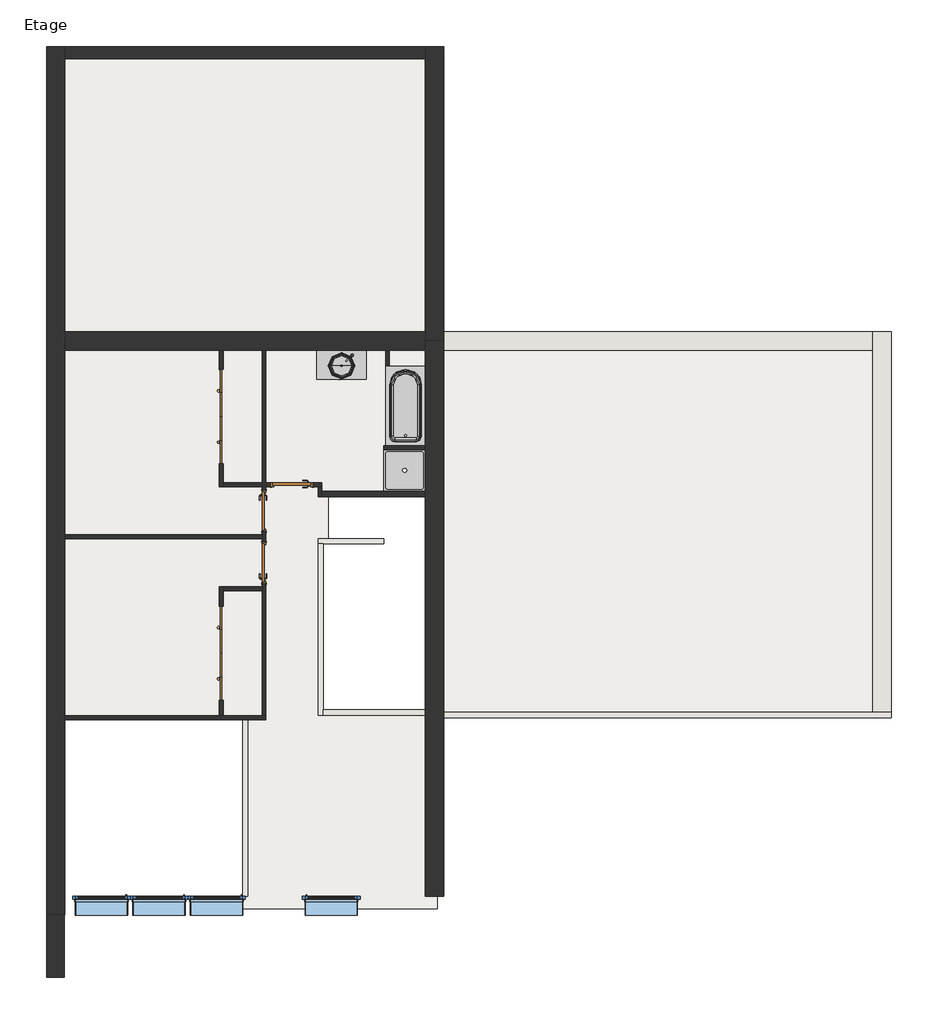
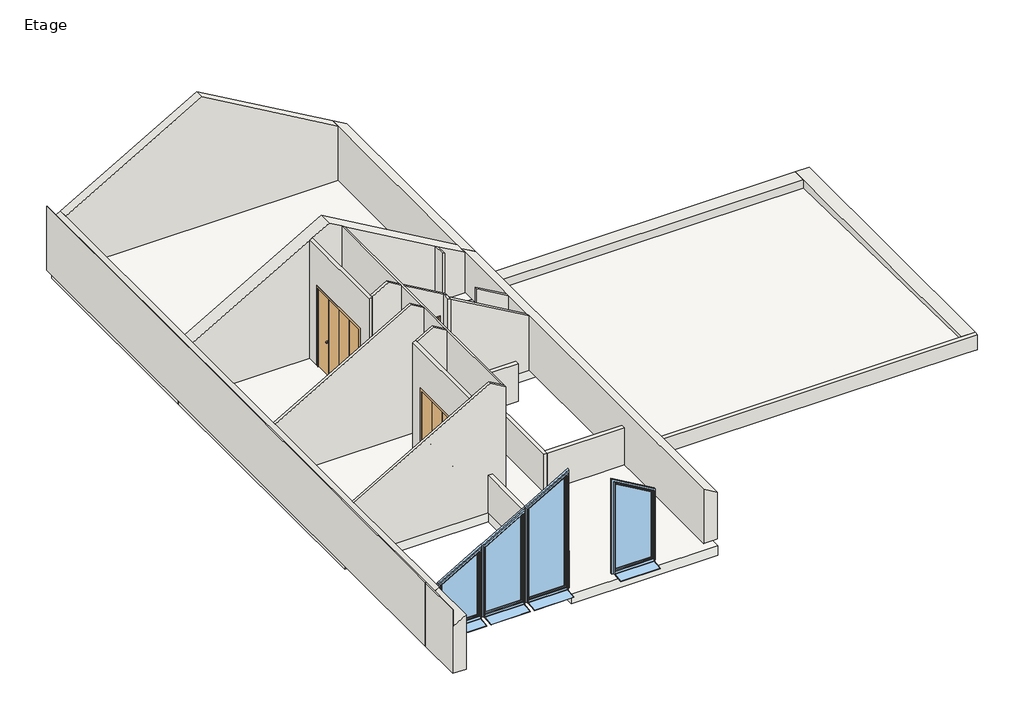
# One storey, incomplete: 25 walls, 5 doors, 4 windows, 3 flow terminals, 3 slabs, 1 furniture element, 1 roof.
"""IFC4 building model written with IfcOpenShell, lengths in millimetres."""

from ifc_helpers import new_model, si_unit, frame, origin, place, context, project, spatial, polyline, outline, extrude, faceted_brep, transform, mapped, element, save
from components import door_180cm_x_210cm_d4e2d69c, int_simple_pp_0_73m_x_2_04m_31faaed5, int_simple_pp_0_73m_x_2_04m_359deddd, flow_terminal_414a0167, flow_terminal_800_x_800mm_07a2eba6, baignoire_rectangulaire_mur_baignoire_rectangulaire_mur_f2afccf1, furniture_900mm_0b803dc7, window_1_vantail_angle_1_00m_x_1_83m_b6dea95d, window_1_vantail_angle_1_00m_x_2_45m_7bd88ca6, window_1_vantail_angle_1_00m_x_2_45m_d07fa77f, window_1_vantail_angle_1_00m_x_3_09m_aeb0207c

model = new_model("IFC4")

# Units and contexts
model_context = context("Model", 3, world=origin())
ifc_project = project(units=[si_unit("LENGTHUNIT", "METRE", prefix="MILLI")], contexts=[model_context])

# Site, building, storey
site = spatial("IfcSite", under=ifc_project)
building = spatial("IfcBuilding", under=site)
storey = spatial("IfcBuildingStorey", under=building, Name="Etage", Elevation=3000.0)

# Doors
placement = place(None, origin())
door_180cm_x_210cm_shape = door_180cm_x_210cm_d4e2d69c(model_context)
element("IfcDoor", 1, ObjectType="Placard double pliante : 180cm x 210cm", at=placement, inside=storey, context=model_context, shape_type="MappedRepresentation", body=[
    mapped(door_180cm_x_210cm_shape, transform((-4616.3224934, 785.4574199, 3000.0), x_axis=(0.0, -1.0, 0.0), y_axis=(1.0, 0.0, 0.0), z_axis=(0.0, 0.0, 1.0))),
])
element("IfcDoor", 2, ObjectType="Placard double pliante : 180cm x 210cm", at=placement, inside=storey, context=model_context, shape_type="MappedRepresentation", body=[
    mapped(door_180cm_x_210cm_shape, transform((-4616.3224934, -3737.5425801, 3000.0), x_axis=(0.0, -1.0, 0.0), y_axis=(1.0, 0.0, 0.0), z_axis=(0.0, 0.0, 1.0))),
])
int_simple_pp_0_73m_x_2_04m_shape = int_simple_pp_0_73m_x_2_04m_31faaed5(model_context)
element("IfcDoor", 3, ObjectType="Int. Simple : PP (0.73m x 2.04m)", at=placement, inside=storey, context=model_context, shape_type="MappedRepresentation", body=[
    mapped(int_simple_pp_0_73m_x_2_04m_shape, transform((-3801.3224934, -1975.0425801, 3000.0), x_axis=(0.0, 1.0, 0.0), y_axis=(-1.0, 0.0, 0.0), z_axis=(0.0, 0.0, 1.0))),
])
int_simple_pp_0_73m_x_2_04m_2_shape = int_simple_pp_0_73m_x_2_04m_359deddd(model_context)
element("IfcDoor", 4, ObjectType="Int. Simple : PP (0.73m x 2.04m)", at=placement, inside=storey, context=model_context, shape_type="MappedRepresentation", body=[
    mapped(int_simple_pp_0_73m_x_2_04m_2_shape, transform((-3801.3224934, -1053.0425801, 3000.0), x_axis=(0.0, -1.0, 0.0), y_axis=(1.0, 0.0, 0.0), z_axis=(0.0, 0.0, 1.0))),
])
element("IfcDoor", 5, ObjectType="Int. Simple : PP (0.73m x 2.04m)", at=placement, inside=storey, context=model_context, shape_type="MappedRepresentation", body=[
    mapped(int_simple_pp_0_73m_x_2_04m_2_shape, transform((-3304.3224934, -520.0425801, 3000.0), x_axis=(-1.0, 0.0, 0.0), y_axis=(0.0, -1.0, 0.0), z_axis=(0.0, 0.0, 1.0))),
])

# Flow terminals
flow_terminal_shape = flow_terminal_414a0167(model_context)
element("IfcFlowTerminal", 6, ObjectType="Lavabo moderne : Lavabo moderne", at=placement, inside=storey, context=model_context, shape_type="MappedRepresentation", body=[
    mapped(flow_terminal_shape, transform((-2344.1723599, 2054.9574199, 3740.0), x_axis=(1.0, 0.0, 0.0), y_axis=(0.0, 1.0, 0.0), z_axis=(0.0, 0.0, 1.0))),
])
flow_terminal_800_x_800mm_shape = flow_terminal_800_x_800mm_07a2eba6(model_context)
element("IfcFlowTerminal", 7, ObjectType="Receveur d'angle - Vidange axée : 800 x 800mm", at=placement, inside=storey, context=model_context, shape_type="MappedRepresentation", body=[
    mapped(flow_terminal_800_x_800mm_shape, transform((-1116.697342, -245.1038978, 3000.0), x_axis=(1.0, 0.0, 0.0), y_axis=(0.0, 1.0, 0.0), z_axis=(0.0, 0.0, 1.0))),
])
baignoire_rectangulaire_mur_baignoire_rectangulaire_mur_shape = baignoire_rectangulaire_mur_baignoire_rectangulaire_mur_f2afccf1(model_context)
element("IfcFlowTerminal", 8, ObjectType="Baignoire rectangulaire - Mur : Baignoire rectangulaire - Mur", at=placement, inside=storey, context=model_context, shape_type="MappedRepresentation", body=[
    mapped(baignoire_rectangulaire_mur_baignoire_rectangulaire_mur_shape, transform((-541.697342, 1337.4990709, 3000.0), x_axis=(0.0, 1.0, 0.0), y_axis=(-1.0, 0.0, 0.0), z_axis=(0.0, 0.0, 1.0))),
])

# Furniture
furniture_900mm_shape = furniture_900mm_0b803dc7(model_context)
element("IfcFurniture", 9, ObjectType="Meuble sous lavabo - Porte simple et 2 tiroirs : 900mm", at=placement, inside=storey, context=model_context, shape_type="MappedRepresentation", body=[
    mapped(furniture_900mm_shape, transform((-2414.2601983, 2054.9574199, 3000.0), x_axis=(1.0, 0.0, 0.0), y_axis=(0.0, 1.0, 0.0), z_axis=(0.0, 0.0, 1.0))),
])

# Roof
element("IfcRoof", 10, ObjectType="Toiture terrasse", at=placement, inside=storey, context=model_context, shape_type="SweptSolid", body=[
    extrude(outline(polyline([(-4867.1038978, 3320.0639936), (2054.9574199, 3181.6227672), (2054.9574199, 2861.5587736), (-4867.1038978, 3000.0), (-4867.1038978, 3320.0639936)])), frame((-366.697342, 0.0, 0.0), z_axis=(1.0, 0.0, 0.0), x_axis=(0.0, 1.0, 0.0)), (0.0, 0.0, 1.0), 8200.0),
])

# Slabs
element("IfcSlab", 11, ObjectType="Dalle en béton", at=placement, inside=storey, context=model_context, shape_type="Brep", body=[
    faceted_brep([(-486.697342, -8615.0425801, 2750.0), (-4198.697342, -8615.0425801, 2750.0), (-4198.697342, -4992.0425801, 2750.0), (-7606.697342, -4992.0425801, 2750.0), (-7836.697342, -4992.0425801, 2750.0), (-7836.697342, 2284.9574199, 2750.0), (-7606.697342, 2284.9574199, 2750.0), (-716.697342, 2284.9574199, 2750.0), (-486.697342, 2284.9574199, 2750.0), (-486.697342, 2229.9574199, 2750.0), (-486.697342, 757.8961022, 2750.0), (-486.697342, -732.1038978, 2750.0), (-716.697342, -732.1038978, 2750.0), (-2577.5004576, -732.1038978, 2750.0), (-2577.5004576, -745.1038978, 2750.0), (-2577.5004576, -1545.1038978, 2750.0), (-2577.5004576, -1632.1038978, 2750.0), (-2619.1256089, -1632.1038978, 2750.0), (-2682.3224934, -1632.1038978, 2750.0), (-2682.3224934, -1645.1038978, 2750.0), (-2682.3224934, -4831.0425801, 2750.0), (-716.697342, -4831.0425801, 2750.0), (-486.697342, -4831.0425801, 2750.0), (-486.697342, -8385.0425801, 2750.0), (-486.697342, -8615.0425801, 3000.0), (-486.697342, -8385.0425801, 3000.0), (-486.697342, -4831.0425801, 3000.0), (-716.697342, -4831.0425801, 3000.0), (-2682.3224934, -4831.0425801, 3000.0), (-2682.3224934, -1645.1038978, 3000.0), (-2682.3224934, -1632.1038978, 3000.0), (-2619.1256089, -1632.1038978, 3000.0), (-2577.5004576, -1632.1038978, 3000.0), (-2577.5004576, -1545.1038978, 3000.0), (-2577.5004576, -745.1038978, 3000.0), (-2577.5004576, -732.1038978, 3000.0), (-716.697342, -732.1038978, 3000.0), (-486.697342, -732.1038978, 3000.0), (-486.697342, 757.8961022, 3000.0), (-486.697342, 2229.9574199, 3000.0), (-486.697342, 2284.9574199, 3000.0), (-716.697342, 2284.9574199, 3000.0), (-7606.697342, 2284.9574199, 3000.0), (-7836.697342, 2284.9574199, 3000.0), (-7836.697342, -4992.0425801, 3000.0), (-7606.697342, -4992.0425801, 3000.0), (-4198.697342, -4992.0425801, 3000.0), (-4198.697342, -8615.0425801, 3000.0)], [[[0, 1, 2, 3, 4, 5, 6, 7, 8, 9, 10, 11, 12, 13, 14, 15, 16, 17, 18, 19, 20, 21, 22, 23]], [[24, 25, 26, 27, 28, 29, 30, 31, 32, 33, 34, 35, 36, 37, 38, 39, 40, 41, 42, 43, 44, 45, 46, 47]], [[1, 0, 24, 47]], [[5, 4, 44, 43]], [[8, 7, 6, 5, 43, 42, 41, 40]], [[0, 23, 22, 26, 25, 24]], [[2, 1, 47, 46]], [[4, 3, 2, 46, 45, 44]], [[11, 10, 9, 8, 40, 39, 38, 37]], [[13, 12, 11, 37, 36, 35]], [[16, 15, 14, 13, 35, 34, 33, 32]], [[18, 17, 16, 32, 31, 30]], [[20, 19, 18, 30, 29, 28]], [[22, 21, 20, 28, 27, 26]]]),
])
element("IfcSlab", 12, ObjectType="Dalle en béton", at=placement, inside=storey, context=model_context, shape_type="Brep", body=[
    faceted_brep([(-486.697342, 7834.9574199, 2750.0), (-486.697342, 2284.9574199, 2750.0), (-7836.697342, 2284.9574199, 2750.0), (-7836.697342, 7624.9574199, 2750.0), (-7836.697342, 7834.9574199, 2750.0), (-5616.5193778, 7834.9574199, 2750.0), (-486.697342, 7834.9574199, 3000.0), (-5616.5193778, 7834.9574199, 3000.0), (-7836.697342, 7834.9574199, 3000.0), (-7836.697342, 7624.9574199, 3000.0), (-7836.697342, 2284.9574199, 3000.0), (-486.697342, 2284.9574199, 3000.0)], [[[0, 1, 2, 3, 4, 5]], [[6, 7, 8, 9, 10, 11]], [[1, 0, 6, 11]], [[2, 1, 11, 10]], [[4, 3, 2, 10, 9, 8]], [[0, 5, 4, 8, 7, 6]]]),
])
element("IfcSlab", 13, ObjectType="Carrelage", at=placement, inside=storey, context=model_context, shape_type="Brep", body=[
    faceted_brep([(-716.697342, 2054.9574199, 3330.0), (-716.697342, 1751.8961022, 3330.0), (-1406.697342, 1751.8961022, 3330.0), (-1478.697342, 1751.8961022, 3330.0), (-1478.697342, 2054.9574199, 3330.0), (-1406.697342, 2054.9574199, 3330.0), (-716.697342, 2054.9574199, 3380.0), (-1406.697342, 2054.9574199, 3380.0), (-1478.697342, 2054.9574199, 3380.0), (-1478.697342, 1751.8961022, 3380.0), (-1406.697342, 1751.8961022, 3380.0), (-716.697342, 1751.8961022, 3380.0)], [[[0, 1, 2, 3, 4, 5]], [[6, 7, 8, 9, 10, 11]], [[1, 0, 6, 11]], [[3, 2, 1, 11, 10, 9]], [[4, 3, 9, 8]], [[0, 5, 4, 8, 7, 6]]]),
])

# Walls
element("IfcWall", 14, ObjectType="Ext. Bardage Métal + Isolant + Béton + Finition", at=placement, inside=storey, context=model_context, shape_type="Brep", body=[
    faceted_brep([(-7956.697342, 7854.9574199, 3000.0), (-7956.697342, 7624.9574199, 3000.0), (-7956.697342, -8735.0425801, 3000.0), (-7956.697342, -8735.0425801, 4700.0), (-7956.697342, 7854.9574199, 4700.0), (-7606.697342, 7854.9574199, 3000.0), (-7606.697342, 7854.9574199, 4452.0725942), (-7606.697342, 7624.9574199, 4452.0725942), (-7606.697342, 2404.9574199, 4452.0725942), (-7606.697342, 2054.9574199, 4452.0725942), (-7606.697342, -1478.0425801, 4452.0725942), (-7606.697342, -1550.0425801, 4452.0725942), (-7606.697342, -4933.0425801, 4452.0725942), (-7606.697342, -5005.0425801, 4452.0725942), (-7606.697342, -8385.0425801, 4452.0725942), (-7606.697342, -8735.0425801, 4452.0725942), (-7606.697342, -8735.0425801, 3000.0), (-7606.697342, -8385.0425801, 3000.0), (-7606.697342, -5005.0425801, 3000.0), (-7606.697342, -4992.0425801, 3000.0), (-7606.697342, -4933.0425801, 3000.0), (-7606.697342, -1550.0425801, 3000.0), (-7606.697342, -1478.0425801, 3000.0), (-7606.697342, 2054.9574199, 3000.0), (-7606.697342, 2284.9574199, 3000.0), (-7606.697342, 2404.9574199, 3000.0), (-7606.697342, 7624.9574199, 3000.0), (-7616.697342, -8735.0425801, 3000.0), (-7936.697342, 7854.9574199, 4700.0), (-7936.697342, 7854.9574199, 4261.5470054), (-7616.697342, -8735.0425801, 4446.2990915), (-7936.697342, -8735.0425801, 4261.5470054), (-7936.697342, -8735.0425801, 4700.0)], [[[0, 1, 2, 3, 4]], [[5, 6, 7, 8, 9, 10, 11, 12, 13, 14, 15, 16, 17, 18, 19, 20, 21, 22, 23, 24, 25, 26]], [[2, 1, 0, 5, 26, 25, 24, 23, 22, 21, 20, 19, 18, 17, 16, 27]], [[0, 4, 28, 29, 6, 5]], [[3, 2, 27, 16, 15, 30, 31, 32]], [[4, 3, 32, 28]], [[28, 32, 31, 29]], [[31, 30, 15, 14, 13, 12, 11, 10, 9, 8, 7, 6, 29]]]),
])
element("IfcWall", 15, ObjectType="Ext. Bardage Bois + Isolant + Béton + Finition", at=placement, inside=storey, context=model_context, shape_type="Brep", body=[
    faceted_brep([(-366.697342, -8385.0425801, 3000.0), (-366.697342, -4967.1038978, 3000.0), (-366.697342, -4867.1038978, 3000.0), (-366.697342, -3635.0425801, 3000.0), (-366.697342, 2054.9574199, 3000.0), (-366.697342, 2229.9574199, 3000.0), (-366.697342, 2229.9574199, 4250.0), (-366.697342, -8385.0425801, 4250.0), (-716.697342, -8385.0425801, 3000.0), (-716.697342, -8385.0425801, 4452.0725942), (-716.697342, -745.1038978, 4452.0725942), (-716.697342, -645.1038978, 4452.0725942), (-716.697342, 154.8961022, 4452.0725942), (-716.697342, 226.8961022, 4452.0725942), (-716.697342, 2054.9574199, 4452.0725942), (-716.697342, 2229.9574199, 4452.0725942), (-716.697342, 2229.9574199, 3000.0), (-716.697342, 2054.9574199, 3000.0), (-716.697342, 226.8961022, 3000.0), (-716.697342, 154.8961022, 3000.0), (-716.697342, -645.1038978, 3000.0), (-716.697342, -732.1038978, 3000.0), (-716.697342, -745.1038978, 3000.0), (-716.697342, -3635.0425801, 3000.0), (-716.697342, -4818.0425801, 3000.0), (-716.697342, -4831.0425801, 3000.0), (-716.697342, -4918.0425801, 3000.0), (-486.697342, -8385.0425801, 3000.0), (-486.697342, 2229.9574199, 3000.0)], [[[0, 1, 2, 3, 4, 5, 6, 7]], [[8, 9, 10, 11, 12, 13, 14, 15, 16, 17, 18, 19, 20, 21, 22, 23, 24, 25, 26]], [[5, 4, 3, 2, 1, 0, 27, 8, 26, 25, 24, 23, 22, 21, 20, 19, 18, 17, 16, 28]], [[0, 7, 9, 8, 27]], [[5, 28, 16, 15, 6]], [[7, 6, 15, 14, 13, 12, 11, 10, 9]]]),
])
element("IfcWall", 16, ObjectType="Ext. Bardage Bois + Isolant + Béton + Finition", at=placement, inside=storey, context=model_context, shape_type="Brep", body=[
    faceted_brep([(-716.697342, 2404.9574199, 4452.0725942), (-716.697342, 2404.9574199, 3000.0), (-7606.697342, 2404.9574199, 3000.0), (-7606.697342, 2404.9574199, 4452.0725942), (-4161.697342, 2404.9574199, 6441.0442716), (-716.697342, 2054.9574199, 3000.0), (-716.697342, 2054.9574199, 4452.0725942), (-1406.697342, 2054.9574199, 4850.44428), (-1478.697342, 2054.9574199, 4892.0134993), (-3765.3224934, 2054.9574199, 6212.197146), (-3837.3224934, 2054.9574199, 6253.7663654), (-4161.697342, 2054.9574199, 6441.0442716), (-4580.3224934, 2054.9574199, 6199.3509277), (-4652.3224934, 2054.9574199, 6157.7817084), (-7606.697342, 2054.9574199, 4452.0725942), (-7606.697342, 2054.9574199, 3000.0), (-4652.3224934, 2054.9574199, 3000.0), (-4580.3224934, 2054.9574199, 3000.0), (-3837.3224934, 2054.9574199, 3000.0), (-3765.3224934, 2054.9574199, 3000.0), (-1478.697342, 2054.9574199, 3000.0), (-1406.697342, 2054.9574199, 3000.0), (-716.697342, 2284.9574199, 3000.0), (-716.697342, 2229.9574199, 3000.0), (-716.697342, 2229.9574199, 4452.0725942)], [[[0, 1, 2, 3, 4]], [[5, 6, 7, 8, 9, 10, 11, 12, 13, 14, 15, 16, 17, 18, 19, 20, 21]], [[2, 1, 22, 23, 5, 21, 20, 19, 18, 17, 16, 15]], [[3, 2, 15, 14]], [[0, 24, 6, 5, 23, 22, 1]], [[0, 4, 11, 10, 9, 8, 7, 6, 24]], [[4, 3, 14, 13, 12, 11]]]),
])
element("IfcWall", 17, ObjectType="Int. Plâtre 70 mm", at=placement, inside=storey, context=model_context, shape_type="Brep", body=[
    faceted_brep([(-7606.697342, -5005.0425801, 3000.0), (-4211.697342, -5005.0425801, 3000.0), (-4111.697342, -5005.0425801, 3000.0), (-3765.3224934, -5005.0425801, 3000.0), (-3765.3224934, -5005.0425801, 6212.197146), (-4161.697342, -5005.0425801, 6441.0442716), (-7606.697342, -5005.0425801, 4452.0725942), (-7606.697342, -4933.0425801, 3000.0), (-7606.697342, -4933.0425801, 4452.0725942), (-4652.3224934, -4933.0425801, 6157.7817084), (-4580.3224934, -4933.0425801, 6199.3509277), (-4161.697342, -4933.0425801, 6441.0442716), (-3837.3224934, -4933.0425801, 6253.7663654), (-3765.3224934, -4933.0425801, 6212.197146), (-3765.3224934, -4933.0425801, 3000.0), (-3837.3224934, -4933.0425801, 3000.0), (-4580.3224934, -4933.0425801, 3000.0), (-4652.3224934, -4933.0425801, 3000.0)], [[[0, 1, 2, 3, 4, 5, 6]], [[7, 8, 9, 10, 11, 12, 13, 14, 15, 16, 17]], [[3, 2, 1, 0, 7, 17, 16, 15, 14]], [[0, 6, 8, 7]], [[4, 3, 14, 13]], [[6, 5, 11, 10, 9, 8]], [[5, 4, 13, 12, 11]]]),
])
element("IfcWall", 18, ObjectType="Int. Plâtre 70 mm", at=placement, inside=storey, context=model_context, shape_type="Brep", body=[
    faceted_brep([(-3765.3224934, -4933.0425801, 6212.197146), (-3765.3224934, -4933.0425801, 3000.0), (-3765.3224934, -2410.0425801, 3000.0), (-3765.3224934, -2410.0425801, 5075.0), (-3765.3224934, -1610.0425801, 5075.0), (-3765.3224934, -1610.0425801, 3000.0), (-3765.3224934, -1418.0425801, 3000.0), (-3765.3224934, -1418.0425801, 5075.0), (-3765.3224934, -618.0425801, 5075.0), (-3765.3224934, -618.0425801, 3000.0), (-3765.3224934, -556.0425801, 3000.0), (-3765.3224934, -484.0425801, 3000.0), (-3765.3224934, 2054.9574199, 3000.0), (-3765.3224934, 2054.9574199, 6212.197146), (-3765.3224934, -484.0425801, 6212.197146), (-3765.3224934, -556.0425801, 6212.197146), (-3837.3224934, -4933.0425801, 3000.0), (-3837.3224934, -4933.0425801, 6253.7663654), (-3837.3224934, -2542.0425801, 6253.7663654), (-3837.3224934, -2470.0425801, 6253.7663654), (-3837.3224934, -1550.0425801, 6253.7663654), (-3837.3224934, -1478.0425801, 6253.7663654), (-3837.3224934, -556.0425801, 6253.7663654), (-3837.3224934, -484.0425801, 6253.7663654), (-3837.3224934, 2054.9574199, 6253.7663654), (-3837.3224934, 2054.9574199, 3000.0), (-3837.3224934, -484.0425801, 3000.0), (-3837.3224934, -556.0425801, 3000.0), (-3837.3224934, -618.0425801, 3000.0), (-3837.3224934, -618.0425801, 5075.0), (-3837.3224934, -1418.0425801, 5075.0), (-3837.3224934, -1418.0425801, 3000.0), (-3837.3224934, -1478.0425801, 3000.0), (-3837.3224934, -1550.0425801, 3000.0), (-3837.3224934, -1610.0425801, 3000.0), (-3837.3224934, -1610.0425801, 5075.0), (-3837.3224934, -2410.0425801, 5075.0), (-3837.3224934, -2410.0425801, 3000.0), (-3837.3224934, -2470.0425801, 3000.0), (-3837.3224934, -2542.0425801, 3000.0)], [[[0, 1, 2, 3, 4, 5, 6, 7, 8, 9, 10, 11, 12, 13, 14, 15]], [[16, 17, 18, 19, 20, 21, 22, 23, 24, 25, 26, 27, 28, 29, 30, 31, 32, 33, 34, 35, 36, 37, 38, 39]], [[1, 16, 39, 38, 37, 2]], [[25, 12, 11, 10, 9, 28, 27, 26]], [[5, 34, 33, 32, 31, 6]], [[1, 0, 17, 16]], [[13, 12, 25, 24]], [[4, 35, 34, 5]], [[35, 4, 3, 36]], [[36, 3, 2, 37]], [[30, 7, 6, 31]], [[7, 30, 29, 8]], [[8, 29, 28, 9]], [[0, 15, 14, 13, 24, 23, 22, 21, 20, 19, 18, 17]]]),
])
element("IfcWall", 19, ObjectType="Int. Plâtre 70 mm", at=placement, inside=storey, context=model_context, shape_type="Brep", body=[
    faceted_brep([(-4652.3224934, 2054.9574199, 6157.7817084), (-4652.3224934, 2054.9574199, 3000.0), (-4652.3224934, 1685.4574199, 3000.0), (-4652.3224934, 1685.4574199, 5100.0), (-4652.3224934, -114.5425801, 5100.0), (-4652.3224934, -114.5425801, 3000.0), (-4652.3224934, -556.0425801, 3000.0), (-4652.3224934, -556.0425801, 6157.7817084), (-4580.3224934, 2054.9574199, 3000.0), (-4580.3224934, 2054.9574199, 6199.3509277), (-4580.3224934, -484.0425801, 6199.3509277), (-4580.3224934, -556.0425801, 6199.3509277), (-4580.3224934, -556.0425801, 3000.0), (-4580.3224934, -484.0425801, 3000.0), (-4580.3224934, -114.5425801, 3000.0), (-4580.3224934, -114.5425801, 5100.0), (-4580.3224934, 1685.4574199, 5100.0), (-4580.3224934, 1685.4574199, 3000.0)], [[[0, 1, 2, 3, 4, 5, 6, 7]], [[8, 9, 10, 11, 12, 13, 14, 15, 16, 17]], [[1, 8, 17, 2]], [[12, 6, 5, 14, 13]], [[1, 0, 9, 8]], [[7, 6, 12, 11]], [[4, 15, 14, 5]], [[15, 4, 3, 16]], [[16, 3, 2, 17]], [[0, 7, 11, 10, 9]]]),
])
element("IfcWall", 20, ObjectType="Int. Plâtre 70 mm", at=placement, inside=storey, context=model_context, shape_type="SweptSolid", body=[
    extrude(outline(polyline([(3000.0, -4580.3224934), (3000.0, -3837.3224934), (6253.7663654, -3837.3224934), (6441.0442716, -4161.697342), (6199.3509277, -4580.3224934), (3000.0, -4580.3224934)])), frame((0.0, -556.0425801, 0.0), z_axis=(0.0, 1.0, 0.0), x_axis=(0.0, 0.0, 1.0)), (0.0, 0.0, 1.0), 72.0),
])
element("IfcWall", 21, ObjectType="Int. Plâtre 70 mm", at=placement, inside=storey, context=model_context, shape_type="Brep", body=[
    faceted_brep([(-2769.3224934, -556.0425801, 3000.0), (-2769.3224934, -745.1038978, 3000.0), (-2769.3224934, -745.1038978, 5637.1562779), (-2769.3224934, -556.0425801, 5637.1562779), (-2697.3224934, -556.0425801, 3000.0), (-2697.3224934, -556.0425801, 5595.5870585), (-2697.3224934, -645.1038978, 5595.5870585), (-2697.3224934, -745.1038978, 5595.5870585), (-2697.3224934, -745.1038978, 3000.0), (-2697.3224934, -645.1038978, 3000.0)], [[[0, 1, 2, 3]], [[4, 5, 6, 7, 8, 9]], [[1, 0, 4, 9, 8]], [[0, 3, 5, 4]], [[2, 1, 8, 7]], [[3, 2, 7, 6, 5]]]),
])
element("IfcWall", 22, ObjectType="Int. Plâtre 70 mm", at=placement, inside=storey, context=model_context, shape_type="SweptSolid", body=[
    extrude(outline(polyline([(3000.0, -716.697342), (4452.0725942, -716.697342), (4913.9528096, -1516.697342), (3000.0, -1516.697342), (3000.0, -716.697342)])), frame((0.0, 154.8961022, 0.0), z_axis=(0.0, 1.0, 0.0), x_axis=(0.0, 0.0, 1.0)), (0.0, 0.0, 1.0), 72.0),
])
element("IfcWall", 23, ObjectType="Int. Plâtre 70 mm", at=placement, inside=storey, context=model_context, shape_type="Brep", body=[
    faceted_brep([(-4580.3224934, -4933.0425801, 6199.3509277), (-4580.3224934, -4933.0425801, 3000.0), (-4580.3224934, -4637.5425801, 3000.0), (-4580.3224934, -4637.5425801, 5100.0), (-4580.3224934, -2837.5425801, 5100.0), (-4580.3224934, -2837.5425801, 3000.0), (-4580.3224934, -2542.0425801, 3000.0), (-4580.3224934, -2470.0425801, 3000.0), (-4580.3224934, -2470.0425801, 6199.3509277), (-4580.3224934, -2542.0425801, 6199.3509277), (-4652.3224934, -4933.0425801, 3000.0), (-4652.3224934, -4933.0425801, 6157.7817084), (-4652.3224934, -2470.0425801, 6157.7817084), (-4652.3224934, -2470.0425801, 3000.0), (-4652.3224934, -2837.5425801, 3000.0), (-4652.3224934, -2837.5425801, 5100.0), (-4652.3224934, -4637.5425801, 5100.0), (-4652.3224934, -4637.5425801, 3000.0)], [[[0, 1, 2, 3, 4, 5, 6, 7, 8, 9]], [[10, 11, 12, 13, 14, 15, 16, 17]], [[1, 10, 17, 2]], [[13, 7, 6, 5, 14]], [[1, 0, 11, 10]], [[8, 7, 13, 12]], [[16, 3, 2, 17]], [[3, 16, 15, 4]], [[4, 15, 14, 5]], [[0, 9, 8, 12, 11]]]),
])
element("IfcWall", 24, ObjectType="Int. Plâtre 70 mm", at=placement, inside=storey, context=model_context, shape_type="SweptSolid", body=[
    extrude(outline(polyline([(3000.0, -4580.3224934), (3000.0, -3837.3224934), (6253.7663654, -3837.3224934), (6441.0442716, -4161.697342), (6199.3509277, -4580.3224934), (3000.0, -4580.3224934)])), frame((0.0, -2542.0425801, 0.0), z_axis=(0.0, 1.0, 0.0), x_axis=(0.0, 0.0, 1.0)), (0.0, 0.0, 1.0), 72.0),
])
element("IfcWall", 25, ObjectType="Int. Plâtre 70 mm", at=placement, inside=storey, context=model_context, shape_type="SweptSolid", body=[
    extrude(outline(polyline([(3000.0, -3837.3224934), (6253.7663654, -3837.3224934), (6441.0442716, -4161.697342), (4452.0725942, -7606.697342), (3000.0, -7606.697342), (3000.0, -3837.3224934)])), frame((0.0, -1550.0425801, 0.0), z_axis=(0.0, 1.0, 0.0), x_axis=(0.0, 0.0, 1.0)), (0.0, 0.0, 1.0), 72.0),
])
element("IfcWall", 26, ObjectType="Int. Plâtre 100 mm", at=placement, inside=storey, context=model_context, shape_type="Brep", body=[
    faceted_brep([(-716.697342, -645.1038978, 3000.0), (-2697.3224934, -645.1038978, 3000.0), (-2697.3224934, -645.1038978, 5595.5870585), (-716.697342, -645.1038978, 4452.0725942), (-716.697342, -745.1038978, 3000.0), (-716.697342, -745.1038978, 4452.0725942), (-2697.3224934, -745.1038978, 5595.5870585), (-2697.3224934, -745.1038978, 3000.0), (-2577.5004576, -745.1038978, 3000.0), (-716.697342, -732.1038978, 3000.0)], [[[0, 1, 2, 3]], [[4, 5, 6, 7, 8]], [[1, 0, 9, 4, 8, 7]], [[0, 3, 5, 4, 9]], [[2, 1, 7, 6]], [[3, 2, 6, 5]]]),
])
element("IfcWall", 27, ObjectType="Int. Plâtre 100 mm", at=placement, inside=storey, context=model_context, shape_type="Brep", body=[
    faceted_brep([(-2769.3224934, -1645.1038978, 3000.0), (-2682.3224934, -1645.1038978, 3000.0), (-2669.3224934, -1645.1038978, 3000.0), (-2619.1256089, -1645.1038978, 3000.0), (-1515.8753062, -1645.1038978, 3000.0), (-1515.8753062, -1645.1038978, 4000.0), (-2669.3224934, -1645.1038978, 4000.0), (-2769.3224934, -1645.1038978, 4000.0), (-2769.3224934, -1545.1038978, 3000.0), (-2769.3224934, -1545.1038978, 4000.0), (-1515.8753062, -1545.1038978, 4000.0), (-1515.8753062, -1545.1038978, 3000.0), (-2577.5004576, -1545.1038978, 3000.0)], [[[0, 1, 2, 3, 4, 5, 6, 7]], [[8, 9, 10, 11, 12]], [[4, 3, 2, 1, 0, 8, 12, 11]], [[5, 4, 11, 10]], [[7, 6, 5, 10, 9]], [[0, 7, 9, 8]]]),
])
element("IfcWall", 28, ObjectType="Int. Plâtre 100 mm", at=placement, inside=storey, context=model_context, shape_type="Brep", body=[
    faceted_brep([(-2669.3224934, -4918.0425801, 3000.0), (-2669.3224934, -4818.0425801, 3000.0), (-2669.3224934, -1645.1038978, 3000.0), (-2669.3224934, -1645.1038978, 4000.0), (-2669.3224934, -4818.0425801, 4000.0), (-2669.3224934, -4918.0425801, 4000.0), (-2769.3224934, -4918.0425801, 3000.0), (-2769.3224934, -4918.0425801, 4000.0), (-2769.3224934, -1645.1038978, 4000.0), (-2769.3224934, -1645.1038978, 3000.0)], [[[0, 1, 2, 3, 4, 5]], [[6, 7, 8, 9]], [[2, 1, 0, 6, 9]], [[5, 4, 3, 8, 7]], [[0, 5, 7, 6]], [[3, 2, 9, 8]]]),
])
element("IfcWall", 29, ObjectType="Int. Plâtre 100 mm", at=placement, inside=storey, context=model_context, shape_type="SweptSolid", body=[
    extrude(outline(polyline([(-2669.3224934, -4818.0425801), (-716.697342, -4818.0425801), (-716.697342, -4918.0425801), (-2669.3224934, -4918.0425801), (-2669.3224934, -4818.0425801)])), frame((0.0, 0.0, 3000.0), z_axis=(0.0, 0.0, 1.0), x_axis=(1.0, 0.0, 0.0)), (0.0, 0.0, 1.0), 1000.0),
])
element("IfcWall", 30, ObjectType="Int. Plâtre 100 mm", at=placement, inside=storey, context=model_context, shape_type="SweptSolid", body=[
    extrude(outline(polyline([(-4211.697342, -8385.0425801), (-4211.697342, -5005.0425801), (-4111.697342, -5005.0425801), (-4111.697342, -8385.0425801), (-4211.697342, -8385.0425801)])), frame((0.0, 0.0, 3000.0), z_axis=(0.0, 0.0, 1.0), x_axis=(1.0, 0.0, 0.0)), (0.0, 0.0, 1.0), 1000.0),
])
element("IfcWall", 31, ObjectType="Ext. Bardage Bois + Béton + Finition", at=placement, inside=storey, context=model_context, shape_type="Brep", body=[
    faceted_brep([(-7606.697342, 7624.9574199, 3000.0), (-716.697342, 7624.9574199, 3000.0), (-716.697342, 7624.9574199, 4452.0725942), (-4161.697342, 7624.9574199, 6441.0442716), (-7606.697342, 7624.9574199, 4452.0725942), (-7606.697342, 7854.9574199, 3000.0), (-7606.697342, 7854.9574199, 4452.0725942), (-4161.697342, 7854.9574199, 6441.0442716), (-716.697342, 7854.9574199, 4452.0725942), (-716.697342, 7854.9574199, 3000.0), (-5616.5193778, 7854.9574199, 3000.0)], [[[0, 1, 2, 3, 4]], [[5, 6, 7, 8, 9, 10]], [[1, 0, 5, 10, 9]], [[0, 4, 6, 5]], [[2, 1, 9, 8]], [[4, 3, 7, 6]], [[3, 2, 8, 7]]]),
])
element("IfcWall", 32, ObjectType="Ext. Bardage Bois + Isolant + Béton + Finition", at=placement, inside=storey, context=model_context, shape_type="Brep", body=[
    faceted_brep([(-366.697342, 2229.9574199, 2750.0), (-366.697342, 2404.9574199, 2750.0), (-366.697342, 7614.9574199, 2750.0), (-366.697342, 7854.9574199, 2750.0), (-366.697342, 7854.9574199, 4250.0), (-366.697342, 2229.9574199, 4250.0), (-366.697342, 2229.9574199, 3000.0), (-716.697342, 7854.9574199, 4452.0725942), (-716.697342, 7854.9574199, 3000.0), (-716.697342, 7854.9574199, 2750.0), (-716.697342, 7614.9574199, 2750.0), (-716.697342, 2404.9574199, 2750.0), (-716.697342, 2284.9574199, 2750.0), (-716.697342, 2284.9574199, 3000.0), (-716.697342, 2229.9574199, 3000.0), (-716.697342, 2229.9574199, 4452.0725942), (-716.697342, 2404.9574199, 4452.0725942), (-716.697342, 7624.9574199, 4452.0725942), (-486.697342, 2229.9574199, 2750.0), (-486.697342, 2284.9574199, 2750.0), (-486.697342, 2284.9574199, 3000.0), (-486.697342, 2229.9574199, 3000.0)], [[[0, 1, 2, 3, 4, 5, 6]], [[7, 8, 9, 10, 11, 12, 13, 14, 15, 16, 17]], [[3, 2, 1, 0, 18, 19, 12, 11, 10, 9]], [[4, 3, 9, 8, 7]], [[13, 20, 21, 14]], [[19, 20, 13, 12]], [[20, 19, 18, 21]], [[0, 6, 5, 15, 14, 21, 18]], [[5, 4, 7, 17, 16, 15]]]),
])
element("IfcWall", 33, ObjectType="Ext. Bardage Métal + Isolant + Béton + Bardage Bois", at=placement, inside=storey, context=model_context, shape_type="SweptSolid", body=[
    extrude(outline(polyline([(4700.0, -7956.697342), (3000.0, -7956.697342), (3000.0, -7616.697342), (4446.2990915, -7616.697342), (4261.5470054, -7936.697342), (4700.0, -7936.697342), (4700.0, -7956.697342)])), frame((0.0, -9932.1038978, 0.0), z_axis=(0.0, 1.0, 0.0), x_axis=(0.0, 0.0, 1.0)), (0.0, 0.0, 1.0), 1197.0613178),
])
element("IfcWall", 34, ObjectType="Int. Plâtre 70 mm", at=placement, inside=storey, context=model_context, shape_type="SweptSolid", body=[
    extrude(outline(polyline([(-1478.697342, 1751.8961022), (-1478.697342, 2054.9574199), (-1406.697342, 2054.9574199), (-1406.697342, 1751.8961022), (-1478.697342, 1751.8961022)])), frame((0.0, 0.0, 3000.0), z_axis=(0.0, 0.0, 1.0), x_axis=(1.0, 0.0, 0.0)), (0.0, 0.0, 1.0), 330.0),
    extrude(outline(polyline([(4850.44428, -1406.697342), (4892.0134993, -1478.697342), (3380.0, -1478.697342), (3380.0, -1406.697342), (4850.44428, -1406.697342)])), frame((0.0, 1751.8961022, 0.0), z_axis=(0.0, 1.0, 0.0), x_axis=(0.0, 0.0, 1.0)), (0.0, 0.0, 1.0), 303.0613178),
])
element("IfcWall", 35, ObjectType="Bardage Bois", at=placement, inside=storey, context=model_context, shape_type="Brep", body=[
    faceted_brep([(8183.302658, -4867.1038978, 3000.0), (7833.302658, -4867.1038978, 3000.0), (-366.697342, -4867.1038978, 3000.0), (-366.697342, -4867.1038978, 3400.0), (7833.302658, -4867.1038978, 3400.0), (8183.302658, -4867.1038978, 3400.0), (8183.302658, -4967.1038978, 3000.0), (8183.302658, -4967.1038978, 3400.0), (-366.697342, -4967.1038978, 3400.0), (-366.697342, -4967.1038978, 3000.0), (7843.302658, -4967.1038978, 3000.0)], [[[0, 1, 2, 3, 4, 5]], [[6, 7, 8, 9, 10]], [[2, 1, 0, 6, 10, 9]], [[5, 4, 3, 8, 7]], [[3, 2, 9, 8]], [[0, 5, 7, 6]]]),
])
element("IfcWall", 36, ObjectType="Ext. Bardage Bois + Isolant + Béton + Finition", at=placement, inside=storey, context=model_context, shape_type="Brep", body=[
    faceted_brep([(8183.302658, -4867.1038978, 3000.0), (8183.302658, -3985.0425801, 3000.0), (8183.302658, -3635.0425801, 3000.0), (8183.302658, 2404.9574199, 3000.0), (8183.302658, 2404.9574199, 3400.0), (8183.302658, -4867.1038978, 3400.0), (7833.302658, -4867.1038978, 3000.0), (7833.302658, -4867.1038978, 3320.0639936), (7833.302658, -4867.1038978, 3400.0), (7833.302658, 2054.9574199, 3400.0), (7833.302658, 2404.9574199, 3400.0), (7833.302658, 2404.9574199, 3000.0), (7833.302658, 2054.9574199, 3000.0), (7833.302658, -3635.0425801, 3000.0), (7833.302658, -3985.0425801, 3000.0), (7843.302658, -4867.1038978, 3000.0)], [[[0, 1, 2, 3, 4, 5]], [[6, 7, 8, 9, 10, 11, 12, 13, 14]], [[3, 2, 1, 0, 15, 6, 14, 13, 12, 11]], [[5, 4, 10, 9, 8]], [[4, 3, 11, 10]], [[0, 5, 8, 7, 6, 15]]]),
])
element("IfcWall", 37, ObjectType="Ext. Bardage Bois + Isolant + Béton + Finition", at=placement, inside=storey, context=model_context, shape_type="Brep", body=[
    faceted_brep([(7833.302658, 2404.9574199, 3000.0), (-366.697342, 2404.9574199, 3000.0), (-366.697342, 2404.9574199, 3400.0), (7833.302658, 2404.9574199, 3400.0), (7833.302658, 2054.9574199, 3000.0), (7833.302658, 2054.9574199, 3400.0), (-366.697342, 2054.9574199, 3400.0), (-366.697342, 2054.9574199, 3000.0), (-366.697342, 2229.9574199, 3000.0)], [[[0, 1, 2, 3]], [[4, 5, 6, 7]], [[1, 0, 4, 7, 8]], [[3, 2, 6, 5]], [[0, 3, 5, 4]], [[2, 1, 8, 7, 6]]]),
])
element("IfcWall", 38, ObjectType="Int. Plâtre 70 mm", at=placement, inside=storey, context=model_context, shape_type="Brep", body=[
    faceted_brep([(-2697.3224934, -556.0425801, 3000.0), (-2697.3224934, -556.0425801, 5595.5870585), (-2769.3224934, -556.0425801, 5637.1562779), (-3765.3224934, -556.0425801, 6212.197146), (-3765.3224934, -556.0425801, 3000.0), (-3669.3224934, -556.0425801, 3000.0), (-3669.3224934, -556.0425801, 5075.0), (-2869.3224934, -556.0425801, 5075.0), (-2869.3224934, -556.0425801, 3000.0), (-2769.3224934, -556.0425801, 3000.0), (-2697.3224934, -484.0425801, 5595.5870585), (-2697.3224934, -484.0425801, 3000.0), (-2869.3224934, -484.0425801, 3000.0), (-2869.3224934, -484.0425801, 5075.0), (-3669.3224934, -484.0425801, 5075.0), (-3669.3224934, -484.0425801, 3000.0), (-3765.3224934, -484.0425801, 3000.0), (-3765.3224934, -484.0425801, 6212.197146)], [[[0, 1, 2, 3, 4, 5, 6, 7, 8, 9]], [[10, 11, 12, 13, 14, 15, 16, 17]], [[11, 0, 9, 8, 12]], [[4, 16, 15, 5]], [[1, 0, 11, 10]], [[4, 3, 17, 16]], [[3, 2, 1, 10, 17]], [[14, 6, 5, 15]], [[6, 14, 13, 7]], [[7, 13, 12, 8]]]),
])

# Windows
window_1_vantail_angle_1_00m_x_1_83m_shape = window_1_vantail_angle_1_00m_x_1_83m_b6dea95d(model_context)
element("IfcWindow", 39, ObjectType="1 Vantail - Angle : 1.00m x 1.83m", at=placement, inside=storey, context=model_context, shape_type="MappedRepresentation", body=[
    mapped(window_1_vantail_angle_1_00m_x_1_83m_shape, transform((-6906.697342, -8560.0425801, 3000.0), x_axis=(-1.0, 0.0, 0.0), y_axis=(0.0, -1.0, 0.0), z_axis=(0.0, 0.0, 1.0))),
])
window_1_vantail_angle_1_00m_x_2_45m_shape = window_1_vantail_angle_1_00m_x_2_45m_7bd88ca6(model_context)
element("IfcWindow", 40, ObjectType="1 Vantail - Angle : 1.00m x 2.45m", at=placement, inside=storey, context=model_context, shape_type="MappedRepresentation", body=[
    mapped(window_1_vantail_angle_1_00m_x_2_45m_shape, transform((-5806.697342, -8560.0425801, 3000.0), x_axis=(-1.0, 0.0, 0.0), y_axis=(0.0, -1.0, 0.0), z_axis=(0.0, 0.0, 1.0))),
])
window_1_vantail_angle_1_00m_x_2_45m_2_shape = window_1_vantail_angle_1_00m_x_2_45m_d07fa77f(model_context)
element("IfcWindow", 41, ObjectType="1 Vantail - Angle : 1.00m x 2.45m", at=placement, inside=storey, context=model_context, shape_type="MappedRepresentation", body=[
    mapped(window_1_vantail_angle_1_00m_x_2_45m_2_shape, transform((-2516.697342, -8560.0425801, 3000.0), x_axis=(1.0, 0.0, 0.0), y_axis=(0.0, 1.0, 0.0), z_axis=(0.0, 0.0, 1.0))),
])
window_1_vantail_angle_1_00m_x_3_09m_shape = window_1_vantail_angle_1_00m_x_3_09m_aeb0207c(model_context)
element("IfcWindow", 42, ObjectType="1 Vantail - Angle : 1.00m x 3.09m", at=placement, inside=storey, context=model_context, shape_type="MappedRepresentation", body=[
    mapped(window_1_vantail_angle_1_00m_x_3_09m_shape, transform((-4706.697342, -8560.0425801, 3000.0), x_axis=(-1.0, 0.0, 0.0), y_axis=(0.0, -1.0, 0.0), z_axis=(0.0, 0.0, 1.0))),
])

save(model, "model.ifc")
